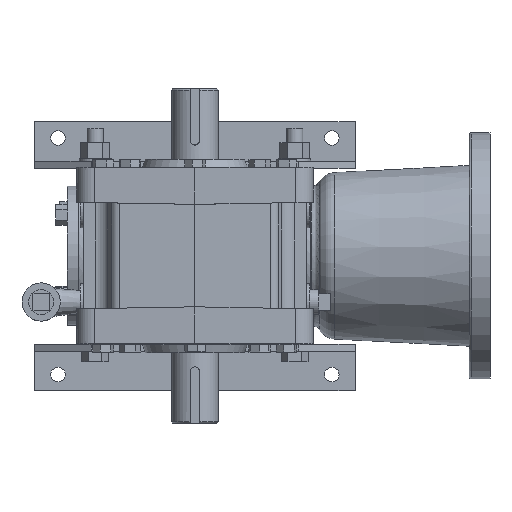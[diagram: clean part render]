
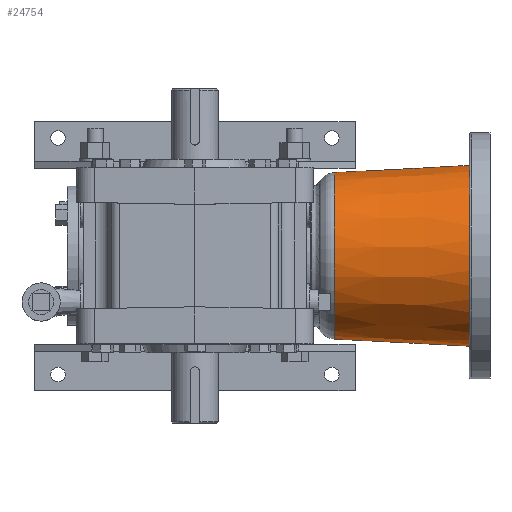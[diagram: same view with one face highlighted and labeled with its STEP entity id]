
A CAD part, top view. The second image highlights one B-rep face of the part: STEP entity #24754.
In plain terms, the highlighted conical face has half-angle 3 degrees and reference radius 61.913 mm.
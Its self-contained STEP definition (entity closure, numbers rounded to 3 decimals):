
#30=CONICAL_SURFACE('',#26015,61.912,0.052);
#1152=B_SPLINE_CURVE_WITH_KNOTS('',3,(#45105,#45106,#45107,#45108),
 .UNSPECIFIED.,.F.,.F.,(4,4),(0.083,0.164),
 .UNSPECIFIED.);
#1153=B_SPLINE_CURVE_WITH_KNOTS('',3,(#45110,#45111,#45112,#45113,#45114,
#45115,#45116,#45117,#45118,#45119),.UNSPECIFIED.,.F.,.F.,(4,1,1,1,1,1,
1,4),(0.,0.002,0.005,0.007,
0.01,0.012,0.015,0.02),
 .UNSPECIFIED.);
#1154=B_SPLINE_CURVE_WITH_KNOTS('',3,(#45121,#45122,#45123,#45124),
 .UNSPECIFIED.,.F.,.F.,(4,4),(0.083,0.164),
 .UNSPECIFIED.);
#8502=ORIENTED_EDGE('',*,*,#11156,.F.);
#8503=ORIENTED_EDGE('',*,*,#11157,.T.);
#8504=ORIENTED_EDGE('',*,*,#11158,.T.);
#8505=ORIENTED_EDGE('',*,*,#11159,.T.);
#8506=ORIENTED_EDGE('',*,*,#11117,.T.);
#11117=EDGE_CURVE('',#12703,#12703,#13288,.T.);
#11156=EDGE_CURVE('',#12737,#12738,#13312,.T.);
#11157=EDGE_CURVE('',#12737,#12739,#1152,.T.);
#11158=EDGE_CURVE('',#12739,#12740,#1153,.T.);
#11159=EDGE_CURVE('',#12740,#12738,#1154,.T.);
#12703=VERTEX_POINT('',#44977);
#12737=VERTEX_POINT('',#45103);
#12738=VERTEX_POINT('',#45104);
#12739=VERTEX_POINT('',#45109);
#12740=VERTEX_POINT('',#45120);
#13288=CIRCLE('',#25972,61.912);
#13312=CIRCLE('',#26016,57.082);
#14486=EDGE_LOOP('',(#8502,#8503,#8504,#8505));
#14487=EDGE_LOOP('',(#8506));
#15760=FACE_BOUND('',#14486,.T.);
#15761=FACE_BOUND('',#14487,.T.);
#24754=ADVANCED_FACE('',(#15760,#15761),#30,.T.);
#25972=AXIS2_PLACEMENT_3D('',#44976,#29608,#29609);
#26015=AXIS2_PLACEMENT_3D('',#45101,#29700,#29701);
#26016=AXIS2_PLACEMENT_3D('',#45102,#29702,#29703);
#29608=DIRECTION('',(-1.,0.,0.));
#29609=DIRECTION('',(0.,0.,1.));
#29700=DIRECTION('',(1.,0.,0.));
#29701=DIRECTION('',(0.,0.,-1.));
#29702=DIRECTION('',(-1.,0.,0.));
#29703=DIRECTION('',(0.,0.,1.));
#44976=CARTESIAN_POINT('',(108.226,0.,0.));
#44977=CARTESIAN_POINT('',(108.226,0.,61.912));
#45101=CARTESIAN_POINT('',(108.226,0.,0.));
#45102=CARTESIAN_POINT('',(16.058,0.,0.));
#45103=CARTESIAN_POINT('',(16.058,-6.35,-56.728));
#45104=CARTESIAN_POINT('',(16.058,6.35,-56.728));
#45105=CARTESIAN_POINT('',(16.058,-6.35,-56.728));
#45106=CARTESIAN_POINT('',(43.161,-6.35,-58.157));
#45107=CARTESIAN_POINT('',(70.264,-6.35,-59.586));
#45108=CARTESIAN_POINT('',(97.368,-6.35,-61.014));
#45109=CARTESIAN_POINT('',(97.368,-6.35,-61.014));
#45110=CARTESIAN_POINT('',(97.368,-6.35,-61.014));
#45111=CARTESIAN_POINT('',(98.208,-6.35,-61.058));
#45112=CARTESIAN_POINT('',(99.86,-6.018,-61.181));
#45113=CARTESIAN_POINT('',(101.972,-4.609,-61.421));
#45114=CARTESIAN_POINT('',(103.383,-2.501,-61.623));
#45115=CARTESIAN_POINT('',(103.884,-0.005,-61.703));
#45116=CARTESIAN_POINT('',(103.388,2.492,-61.624));
#45117=CARTESIAN_POINT('',(101.502,5.316,-61.352));
#45118=CARTESIAN_POINT('',(99.047,6.35,-61.102));
#45119=CARTESIAN_POINT('',(97.368,6.35,-61.014));
#45120=CARTESIAN_POINT('',(97.368,6.35,-61.014));
#45121=CARTESIAN_POINT('',(97.368,6.35,-61.014));
#45122=CARTESIAN_POINT('',(70.264,6.35,-59.586));
#45123=CARTESIAN_POINT('',(43.161,6.35,-58.157));
#45124=CARTESIAN_POINT('',(16.058,6.35,-56.728));
